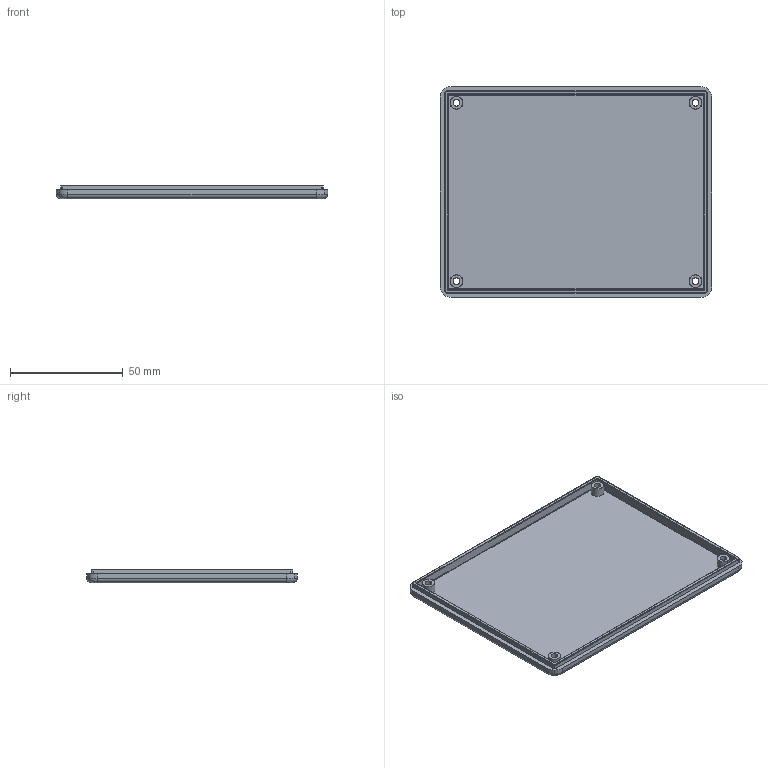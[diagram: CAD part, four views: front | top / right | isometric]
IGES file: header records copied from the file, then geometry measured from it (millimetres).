
Global section: file name: No Iges File Name specified; native system: AutoDesk Inventor R10; preprocessor: AutoDesk Inventor Iges Exporter R10; author: No Author specified; organization: No Organization specified; date: 20060220.101330; units: millimetre
Bounding box: 120.5 x 93.6 x 6 mm (x, y, z)
Volume: 27439.7 mm3; surface area: 26463.8 mm2
Topology: 1 solids, 1 shells, 108 faces, 252 edges, 152 vertices
Faces by surface type: cylinder 40, bspline 24, plane 20, revolution 16, cone 8
